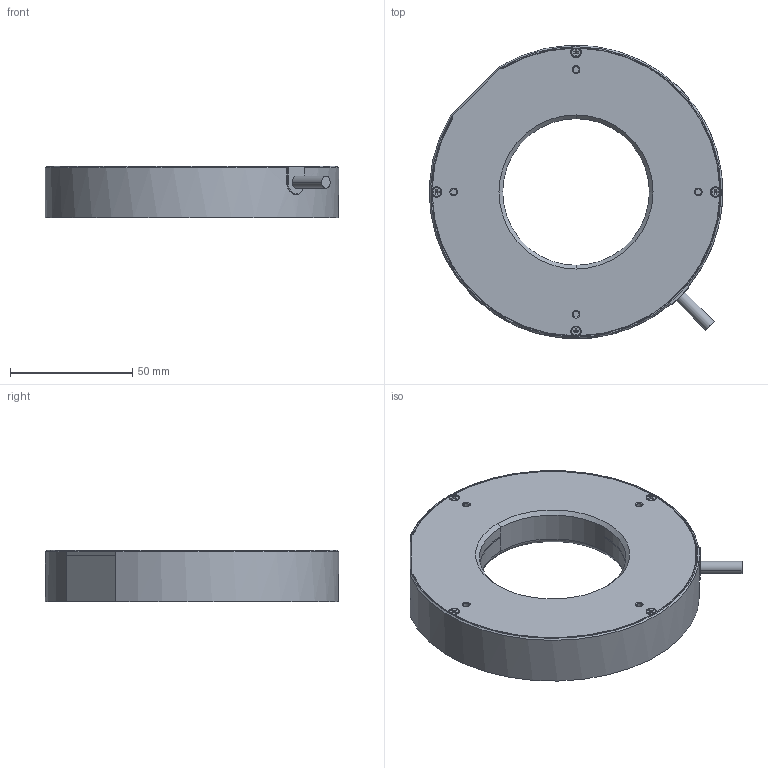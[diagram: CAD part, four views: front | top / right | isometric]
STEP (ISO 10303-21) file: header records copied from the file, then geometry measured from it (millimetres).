
FILE_DESCRIPTION((''),'2;1');
FILE_NAME('MV-LRDS-H-120-75-W','2022-09-02T15:36:07',('qiaoxuan5'),(''),'CREO PARAMETRIC BY PTC INC, 2020044','CREO PARAMETRIC BY PTC INC, 2020044','');
FILE_SCHEMA(('CONFIG_CONTROL_DESIGN'));
Length unit declared in the file: metre
Products named in the file (1): MV-LRDS-H-120-75-W
Bounding box: 119.92 x 119.92 x 21 mm (x, y, z)
Volume: 161736 mm3; surface area: 40619 mm2
Topology: 1 solids, 16 shells, 531 faces, 1264 edges, 748 vertices
Faces by surface type: plane 263, cylinder 156, cone 82, torus 24, sphere 6
Entity records: 15238 total; most frequent: CARTESIAN_POINT 2949, DIRECTION 2634, ORIENTED_EDGE 2484, EDGE_CURVE 1242, AXIS2_PLACEMENT_3D 953, VERTEX_POINT 748, VECTOR 728, LINE 728
